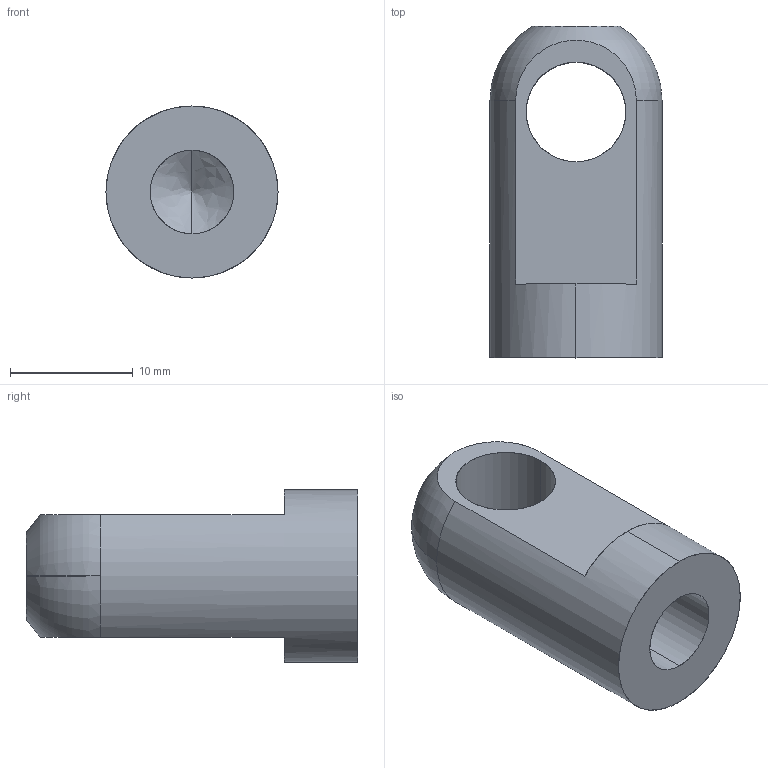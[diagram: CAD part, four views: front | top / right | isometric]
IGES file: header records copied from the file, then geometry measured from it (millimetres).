
Start section: SolidWorks IGES file using analytic representation for surfaces
Bounding box: 14 x 27 x 14 mm (x, y, z)
Surface area: 1772.4 mm2 (no closed solid volume)
Topology: 0 solids, 0 shells, 16 faces, 304 edges, 302 vertices
Faces by surface type: revolution 10, bspline 6
